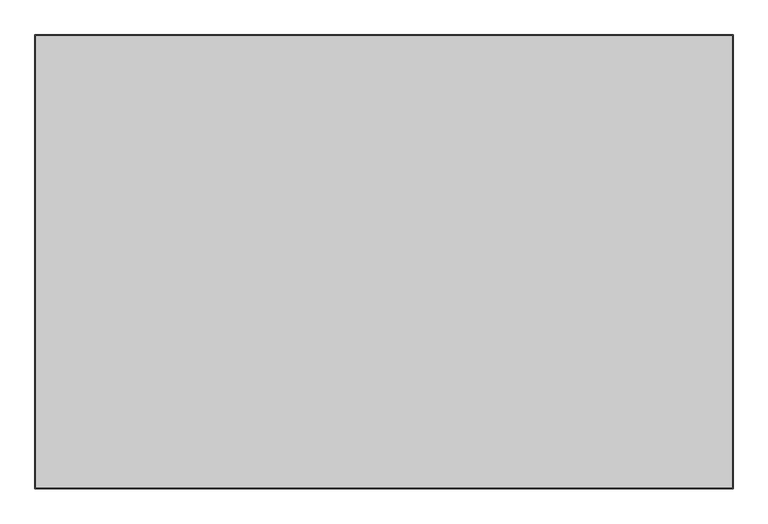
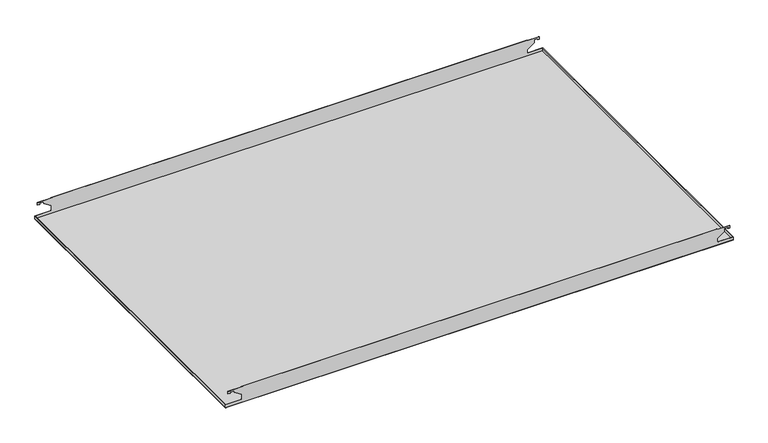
"""IFC4 building model written with IfcOpenShell, lengths in millimetres: proxy geometry, durlum_S10H_RHOMBOS_panel : durlum_S10H_RHOMBOS_panel."""

from ifc_helpers import new_model, si_unit, origin, origin_with_axes, place, context, project, spatial, polyline, outline, extrude, faceted_brep, source, transform, mapped, element, save


def generic_models_f7436aae(model_context):
    return source(origin(), model_context, "Body", "SolidModel", [
        faceted_brep([(562.6449361, -389.75, 40.0), (562.6449361, -389.15, 40.0), (-561.2372764, -389.15, 40.0), (-561.2372764, -389.75, 40.0), (562.6449361, 389.15, 40.0), (562.6449361, 389.75, 40.0), (-561.2372764, 389.75, 40.0), (-561.2372764, 389.15, 40.0), (599.75, 389.75, 0.6), (599.75, -389.75, 0.6), (-599.75, -389.75, 0.6), (-599.75, 389.75, 0.6), (599.15, 389.15, 0.6), (-599.15, 389.15, 0.6), (-599.15, -389.15, 0.6), (599.15, -389.15, 0.6), (-599.75, 389.75, 7.4953392), (-561.2372764, 389.75, 7.4953392), (-561.2372764, 389.75, 20.146504), (-578.641527, 389.75, 31.0550715), (-578.641527, 389.75, 35.3409289), (-588.641527, 389.75, 35.3409289), (-588.641527, 389.75, 32.5809806), (-594.2936209, 389.75, 32.5809806), (-594.2936209, 389.75, 38.4781412), (-561.2372764, 389.75, 38.4781412), (562.6449361, 389.75, 38.4781412), (591.4054236, 389.75, 38.4781412), (591.4054236, 389.75, 32.5809806), (587.9909365, 389.75, 32.5809806), (587.9909365, 389.75, 35.3409289), (579.2577291, 389.75, 35.3409289), (579.2577291, 389.75, 28.4951448), (562.6449361, 389.75, 16.8522162), (562.6449361, 389.75, 7.4953392), (599.75, 389.75, 7.4953392), (-599.75, -389.75, 7.4953392), (599.75, -389.75, 7.4953392), (562.6449361, -389.75, 7.4953392), (562.6449361, -389.75, 16.8522162), (579.2577291, -389.75, 28.4951448), (579.2577291, -389.75, 35.3409289), (587.9909365, -389.75, 35.3409289), (587.9909365, -389.75, 32.5809806), (591.4054236, -389.75, 32.5809806), (591.4054236, -389.75, 38.4781412), (562.6449361, -389.75, 38.4781412), (-561.2372764, -389.75, 38.4781412), (-594.2936209, -389.75, 38.4781412), (-594.2936209, -389.75, 32.5809806), (-588.641527, -389.75, 32.5809806), (-588.641527, -389.75, 35.3409289), (-578.641527, -389.75, 35.3409289), (-578.641527, -389.75, 31.0550715), (-561.2372764, -389.75, 20.146504), (-561.2372764, -389.75, 7.4953392), (599.15, -389.15, 7.4953392), (599.15, 389.15, 7.4953392), (-599.15, -389.15, 7.4953392), (-561.2372764, -389.15, 7.4953392), (-561.2372764, -389.15, 20.146504), (-578.641527, -389.15, 31.0550715), (-578.641527, -389.15, 35.3409289), (-588.641527, -389.15, 35.3409289), (-588.641527, -389.15, 32.5809806), (-594.2936209, -389.15, 32.5809806), (-594.2936209, -389.15, 38.4781412), (-561.2372764, -389.15, 38.4781412), (562.6449361, -389.15, 38.4781412), (591.4054236, -389.15, 38.4781412), (591.4054236, -389.15, 32.5809806), (587.9909365, -389.15, 32.5809806), (587.9909365, -389.15, 35.3409289), (579.2577291, -389.15, 35.3409289), (579.2577291, -389.15, 28.4951448), (562.6449361, -389.15, 16.8522162), (562.6449361, -389.15, 7.4953392), (-599.15, 389.15, 7.4953392), (562.6449361, 389.15, 7.4953392), (562.6449361, 389.15, 16.8522162), (579.2577291, 389.15, 28.4951448), (579.2577291, 389.15, 35.3409289), (587.9909365, 389.15, 35.3409289), (587.9909365, 389.15, 32.5809806), (591.4054236, 389.15, 32.5809806), (591.4054236, 389.15, 38.4781412), (562.6449361, 389.15, 38.4781412), (-561.2372764, 389.15, 38.4781412), (-594.2936209, 389.15, 38.4781412), (-594.2936209, 389.15, 32.5809806), (-588.641527, 389.15, 32.5809806), (-588.641527, 389.15, 35.3409289), (-578.641527, 389.15, 35.3409289), (-578.641527, 389.15, 31.0550715), (-561.2372764, 389.15, 20.146504), (-561.2372764, 389.15, 7.4953392)], [[[0, 1, 2, 3]], [[4, 5, 6, 7]], [[8, 9, 10, 11], [12, 13, 14, 15]], [[8, 11, 16, 17, 18, 19, 20, 21, 22, 23, 24, 25, 6, 5, 26, 27, 28, 29, 30, 31, 32, 33, 34, 35]], [[11, 10, 36, 16]], [[10, 9, 37, 38, 39, 40, 41, 42, 43, 44, 45, 46, 0, 3, 47, 48, 49, 50, 51, 52, 53, 54, 55, 36]], [[9, 8, 35, 37]], [[12, 15, 56, 57]], [[15, 14, 58, 59, 60, 61, 62, 63, 64, 65, 66, 67, 2, 1, 68, 69, 70, 71, 72, 73, 74, 75, 76, 56]], [[14, 13, 77, 58]], [[13, 12, 57, 78, 79, 80, 81, 82, 83, 84, 85, 86, 4, 7, 87, 88, 89, 90, 91, 92, 93, 94, 95, 77]], [[68, 46, 45, 69]], [[26, 86, 85, 27]], [[69, 45, 44, 70]], [[27, 85, 84, 28]], [[70, 44, 43, 71]], [[28, 84, 83, 29]], [[71, 43, 42, 72]], [[29, 83, 82, 30]], [[72, 42, 41, 73]], [[30, 82, 81, 31]], [[73, 41, 40, 74]], [[31, 81, 80, 32]], [[74, 40, 39, 75]], [[32, 80, 79, 33]], [[75, 39, 38, 76]], [[33, 79, 78, 34]], [[76, 38, 37, 35, 34, 78, 57, 56]], [[46, 68, 1, 0]], [[86, 26, 5, 4]], [[66, 48, 47, 67]], [[24, 88, 87, 25]], [[48, 66, 65, 49]], [[88, 24, 23, 89]], [[49, 65, 64, 50]], [[89, 23, 22, 90]], [[50, 64, 63, 51]], [[90, 22, 21, 91]], [[51, 63, 62, 52]], [[91, 21, 20, 92]], [[52, 62, 61, 53]], [[92, 20, 19, 93]], [[53, 61, 60, 54]], [[93, 19, 18, 94]], [[54, 60, 59, 55]], [[94, 18, 17, 95]], [[55, 59, 58, 77, 95, 17, 16, 36]], [[67, 47, 3, 2]], [[25, 87, 7, 6]]]),
        extrude(outline(polyline([(599.75, 389.75), (599.75, -389.75), (-599.75, -389.75), (-599.75, 389.75), (599.75, 389.75)])), origin_with_axes(), (0.0, 0.0, 1.0), 0.6),
    ])


if __name__ == "__main__":
    model = new_model("IFC4")
    model_context = context("Model", 3, world=origin())
    ifc_project = project(units=[si_unit("LENGTHUNIT", "METRE", prefix="MILLI")], contexts=[model_context])
    site = spatial("IfcSite", under=ifc_project)
    building = spatial("IfcBuilding", under=site)
    placement = place(None, origin())
    generic_models_shape = generic_models_f7436aae(model_context)
    element("IfcBuildingElementProxy", 1, Name="durlum_S10H_RHOMBOS_panel : durlum_S10H_RHOMBOS_panel", ObjectType="durlum_S10H_RHOMBOS_panel : durlum_S10H_RHOMBOS_panel", at=placement, inside=building, context=model_context, shape_type="MappedRepresentation", body=[
        mapped(generic_models_shape, transform((0.0, 0.0, 0.0), x_axis=(1.0, 0.0, 0.0), y_axis=(0.0, 1.0, 0.0), z_axis=(0.0, 0.0, 1.0))),
    ])
    save(model, "model.ifc")
